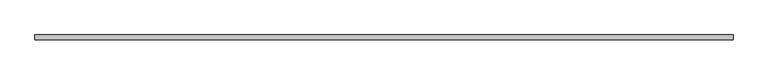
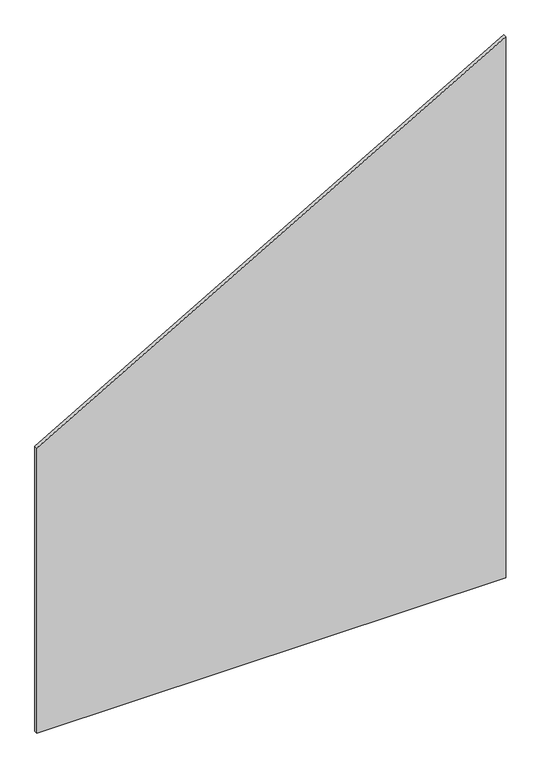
"""IFC4 building model written with IfcOpenShell, lengths in millimetres: plate geometry, 系統嵌板 : 玻璃 1.0cm."""

import ifcopenshell
import ifcopenshell.guid

model = None  # the IFC model being written
_history = None  # IfcOwnerHistory: only IFC2X3 demands one
_inside = {}  # id of a spatial element -> (the spatial element, [elements in it])
_under = {}  # id of a project, library or spatial element -> (it, [spatial elements below it])
_declared = {}  # id of a project -> (the project, [libraries it declares])
_typed = {}  # id of a type object -> (the type object, [elements of that type])
_made_of = {}  # id of a material, layer set ... -> (it, [elements and type objects made of it])


def new_model(schema):
    """Start an empty IFC model of exactly this schema.

    Asked for "IFC4X3", IfcOpenShell would pick the latest addendum, in which some entities
    have other attributes; the version numbers below select the first issue.
    IFC2X3 requires an IfcOwnerHistory on every rooted entity: one is made here for all.
    """
    global model, _history
    if schema == "IFC4X3":
        model = ifcopenshell.file(schema_version=(4, 3, 0, 0))
    else:
        model = ifcopenshell.file(schema=schema)
    _inside.clear()
    _under.clear()
    _declared.clear()
    _typed.clear()
    _made_of.clear()
    _history = None
    if model.schema == "IFC2X3":
        org = make("IfcOrganization", Name="unknown")
        user = make(
            "IfcPersonAndOrganization",
            ThePerson=make("IfcPerson", FamilyName="unknown"),
            TheOrganization=org,
        )
        app = make(
            "IfcApplication",
            ApplicationDeveloper=org,
            Version="unknown",
            ApplicationFullName="unknown",
            ApplicationIdentifier="unknown",
        )
        _history = make(
            "IfcOwnerHistory",
            OwningUser=user,
            OwningApplication=app,
            ChangeAction="ADDED",
            CreationDate=0,
        )
    return model


def make(cls, **values):
    """One entity of the class cls with the attributes given. An attribute that is None is left unset."""
    return model.create_entity(
        cls, **{name: value for name, value in values.items() if value is not None}
    )


def rooted(cls, **values):
    """An entity with a GlobalId (a new one), such as an element, a storey or a relation."""
    return make(cls, GlobalId=ifcopenshell.guid.new(), OwnerHistory=_history, **values)


def si_unit(unit_type, name, prefix=None):
    """IfcSIUnit, for example si_unit("LENGTHUNIT", "METRE", prefix="MILLI")."""
    return make("IfcSIUnit", UnitType=unit_type, Prefix=prefix, Name=name)


def assignment(units):
    """IfcUnitAssignment: the units of a project."""
    return None if units is None else make("IfcUnitAssignment", Units=units)


def point(xyz):
    """IfcCartesianPoint."""
    return None if xyz is None else make("IfcCartesianPoint", Coordinates=xyz)


def direction(xyz):
    """IfcDirection."""
    return None if xyz is None else make("IfcDirection", DirectionRatios=xyz)


def frame(location, z_axis=None, x_axis=None):
    """IfcAxis2Placement3D, a coordinate frame: its origin and axes. An axis left out is left unset."""
    return make(
        "IfcAxis2Placement3D",
        Location=point(location),
        Axis=direction(z_axis),
        RefDirection=direction(x_axis),
    )


def origin():
    """The frame at (0, 0, 0) with its axes left unset."""
    return frame((0.0, 0.0, 0.0))


def place(relative_to, where):
    """IfcLocalPlacement: puts the frame where relative to a parent placement (None: the world)."""
    return make(
        "IfcLocalPlacement", PlacementRelTo=relative_to, RelativePlacement=where
    )


def context(
    kind, dimensions, precision=None, world=None, true_north=None, identifier=None
):
    """IfcGeometricRepresentationContext, for example the 3D "Model" context."""
    return make(
        "IfcGeometricRepresentationContext",
        ContextIdentifier=identifier,
        ContextType=kind,
        CoordinateSpaceDimension=dimensions,
        Precision=precision,
        WorldCoordinateSystem=world,
        TrueNorth=true_north,
    )


def project(units=None, contexts=None):
    """IfcProject with its units and contexts."""
    return rooted(
        "IfcProject",
        Name="project",
        RepresentationContexts=contexts,
        UnitsInContext=assignment(units),
    )


def spatial(cls, under=None, at=None, **own):
    """A site, building, storey or space (cls), placed at a placement, below another one or the project."""
    s = rooted(cls, ObjectPlacement=at, **own)
    if under is not None:
        _under.setdefault(under.id(), (under, []))[1].append(s)
    return s


def polyline(points):
    """IfcPolyline through the points."""
    return make("IfcPolyline", Points=[point(p) for p in points])


def outline(outer, holes=None, kind="AREA"):
    """IfcArbitraryClosedProfileDef: a profile drawn as a closed curve; with holes, ...WithVoids."""
    if holes is None:
        return make("IfcArbitraryClosedProfileDef", ProfileType=kind, OuterCurve=outer)
    return make(
        "IfcArbitraryProfileDefWithVoids",
        ProfileType=kind,
        OuterCurve=outer,
        InnerCurves=holes,
    )


def extrude(swept, where, along, depth):
    """IfcExtrudedAreaSolid: the profile swept, set in the frame where, extruded along a direction by depth."""
    return make(
        "IfcExtrudedAreaSolid",
        SweptArea=swept,
        Position=where,
        ExtrudedDirection=direction(along),
        Depth=depth,
    )


def shape(context_of_items, identifier, shape_type, items):
    """IfcShapeRepresentation: the items that make up one representation, for example the "Body"."""
    return make(
        "IfcShapeRepresentation",
        ContextOfItems=context_of_items,
        RepresentationIdentifier=identifier,
        RepresentationType=shape_type,
        Items=items,
    )


def source(mapping_origin, context_of_items, identifier, shape_type, items):
    """IfcRepresentationMap: a shape defined once, which mapped items show again and again."""
    return make(
        "IfcRepresentationMap",
        MappingOrigin=mapping_origin,
        MappedRepresentation=shape(context_of_items, identifier, shape_type, items),
    )


def transform(
    local_origin,
    x_axis=None,
    y_axis=None,
    z_axis=None,
    scale=None,
    scale2=None,
    scale3=None,
    uniform=True,
):
    """IfcCartesianTransformationOperator3D, or its non-uniform kind. x_axis, y_axis, z_axis: its Axis1, 2, 3."""
    if uniform:
        return make(
            "IfcCartesianTransformationOperator3D",
            Axis1=direction(x_axis),
            Axis2=direction(y_axis),
            LocalOrigin=point(local_origin),
            Scale=scale,
            Axis3=direction(z_axis),
        )
    return make(
        "IfcCartesianTransformationOperator3DnonUniform",
        Axis1=direction(x_axis),
        Axis2=direction(y_axis),
        LocalOrigin=point(local_origin),
        Scale=scale,
        Axis3=direction(z_axis),
        Scale2=scale2,
        Scale3=scale3,
    )


def mapped(mapping_source, mapping_target):
    """IfcMappedItem: shows the shape of a source again, moved by a transform."""
    return make(
        "IfcMappedItem", MappingSource=mapping_source, MappingTarget=mapping_target
    )


def made_of(thing, what):
    """Note that an element or type object is made of a material, layer set ...; save() writes the relation."""
    if what is not None:
        _made_of.setdefault(what.id(), (what, []))[1].append(thing)
    return thing


def element(
    cls,
    number,
    at=None,
    inside=None,
    cuts=None,
    type_object=None,
    material=None,
    context=None,
    identifier="Body",
    shape_type=None,
    held_by="IfcProductDefinitionShape",
    body=None,
    shapes=None,
    **own,
):
    """One element of the class cls, such as IfcWall. Its Tag is "e" and its number.

    at: its placement. inside: the storey or other place that contains it. cuts: it is an
    opening in that element (IfcRelVoidsElement). A single representation is given by context,
    identifier, shape_type and body (its items); several are given by shapes. held_by: the class
    of the entity that holds the representations. save() writes the other relations.
    """
    e = rooted(cls, Tag="e%d" % number, ObjectPlacement=at, **own)
    if body is not None:
        shapes = [shape(context, identifier, shape_type, body)]
    if shapes is not None:
        e.Representation = make(held_by, Representations=shapes)
    if inside is not None:
        _inside.setdefault(inside.id(), (inside, []))[1].append(e)
    if cuts is not None:
        rooted(
            "IfcRelVoidsElement", RelatingBuildingElement=cuts, RelatedOpeningElement=e
        )
    if type_object is not None:
        _typed.setdefault(type_object.id(), (type_object, []))[1].append(e)
    return made_of(e, material)


def aggregate(whole, parts):
    """IfcRelAggregates: a whole, such as a stair, and the parts it consists of."""
    return rooted("IfcRelAggregates", RelatingObject=whole, RelatedObjects=parts)


def save(model, path):
    """Write the relations noted so far, then the file.

    IfcRelAggregates (storeys below a building ...), IfcRelContainedInSpatialStructure (elements
    in a storey), IfcRelDefinesByType, IfcRelAssociatesMaterial and IfcRelDeclares: one each for
    every whole, place, type object, material and project.
    """
    for whole, parts in _under.values():
        aggregate(whole, parts)
    for where, things in _inside.values():
        rooted(
            "IfcRelContainedInSpatialStructure",
            RelatedElements=things,
            RelatingStructure=where,
        )
    for kind, things in _typed.values():
        rooted("IfcRelDefinesByType", RelatedObjects=things, RelatingType=kind)
    for what, things in _made_of.values():
        rooted("IfcRelAssociatesMaterial", RelatedObjects=things, RelatingMaterial=what)
    for by, libraries in _declared.values():
        rooted("IfcRelDeclares", RelatingContext=by, RelatedDefinitions=libraries)
    model.write(path)


def plate_2b75f933(model_context):
    return source(origin(), model_context, "Body", "SweptSolid", [
        extrude(outline(polyline([(0.0, -750.0), (0.0, 750.0), (1830.1270189, 750.0), (964.1016151, -750.0), (0.0, -750.0)])), frame((0.0, -5.0, 0.0), z_axis=(0.0, 1.0, 0.0), x_axis=(0.0, 0.0, 1.0)), (0.0, 0.0, 1.0), 10.0),
    ])


if __name__ == "__main__":
    model = new_model("IFC4")
    model_context = context("Model", 3, world=origin())
    ifc_project = project(units=[si_unit("LENGTHUNIT", "METRE", prefix="MILLI")], contexts=[model_context])
    site = spatial("IfcSite", under=ifc_project)
    building = spatial("IfcBuilding", under=site)
    placement = place(None, origin())
    plate_shape = plate_2b75f933(model_context)
    element("IfcPlate", 1, ObjectType="系統嵌板 : 玻璃 1.0cm", at=placement, inside=building, context=model_context, shape_type="MappedRepresentation", body=[
        mapped(plate_shape, transform((0.0, 0.0, 0.0), x_axis=(1.0, 0.0, 0.0), y_axis=(0.0, 1.0, 0.0), z_axis=(0.0, 0.0, 1.0))),
    ])
    save(model, "model.ifc")
